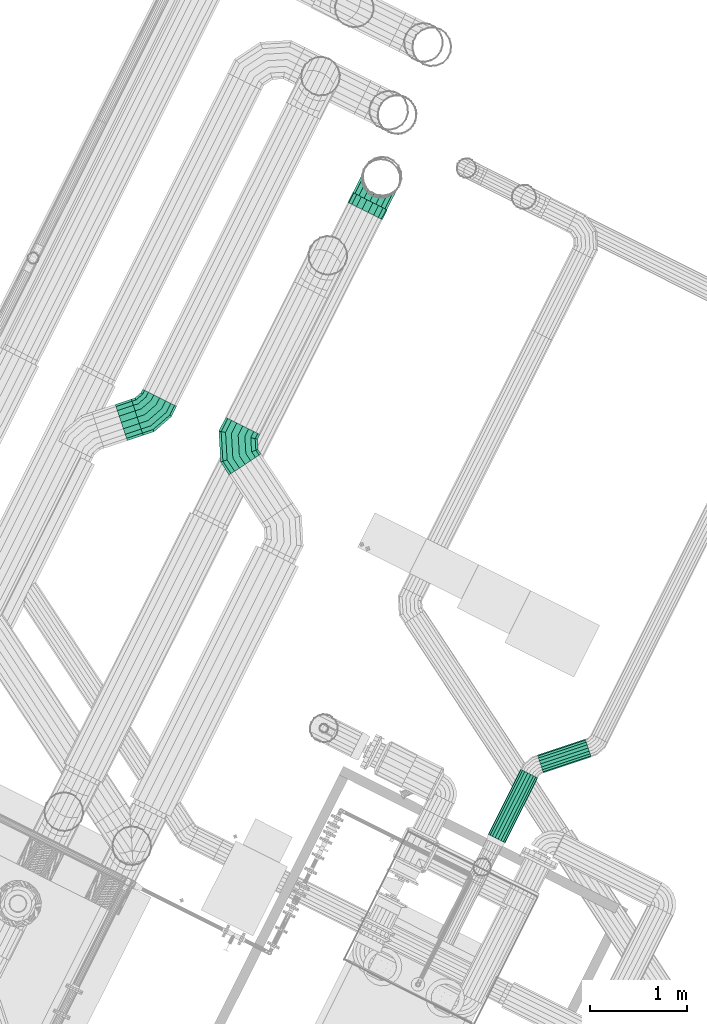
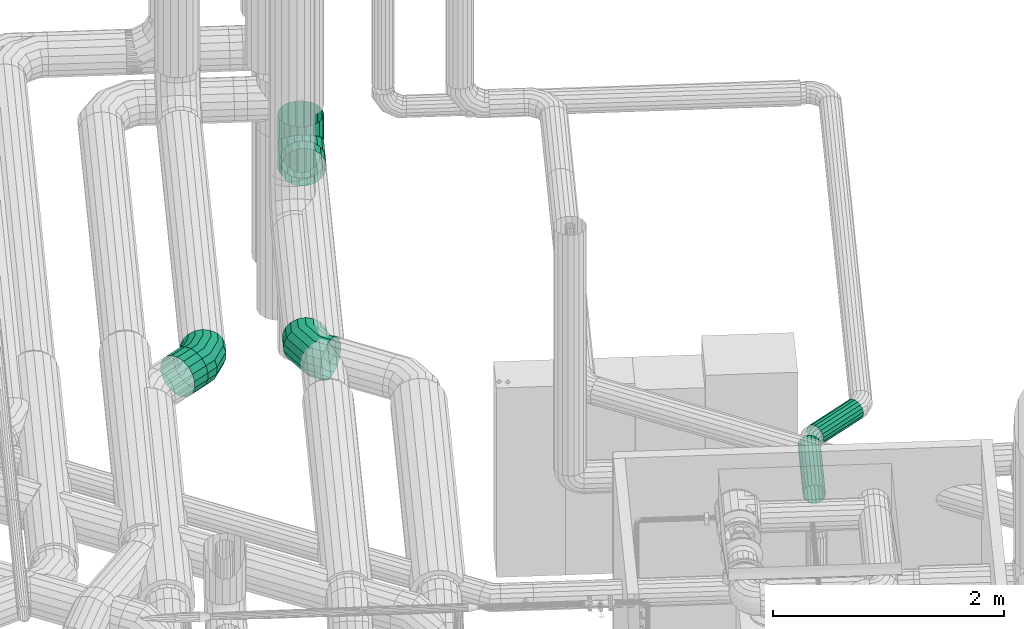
# One storey, part 163 of 206: 4 flow segments, 3 flow fittings.
"""IFC2X3 building model written with IfcOpenShell, lengths in metres."""

from ifc_helpers import new_model, si_unit, derived_unit, direction, frame, origin, place, context, subcontext, project, spatial, face_set, surface_model, source, transform, mapped, material, type_object, type_shapes, element, save


model = new_model("IFC2X3")

# Units and contexts
model_context = context("Model", 3, precision=5.2338327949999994e-05, world=origin(), true_north=direction((0.0, 1.0)))
body_context = subcontext(model_context, "Body", "Model", "MODEL_VIEW")
ifc_project = project(units=[si_unit("LENGTHUNIT", "METRE"), si_unit("AREAUNIT", "SQUARE_METRE"), si_unit("VOLUMEUNIT", "CUBIC_METRE"), si_unit("MASSUNIT", "GRAM", prefix="KILO"), si_unit("PLANEANGLEUNIT", "RADIAN"), derived_unit("THERMALTRANSMITTANCEUNIT", [(si_unit("MASSUNIT", "GRAM", prefix="KILO"), 1), (si_unit("THERMODYNAMICTEMPERATUREUNIT", "KELVIN"), -1), (si_unit("TIMEUNIT", "SECOND"), -3)])], contexts=[model_context])

# Site, building, storey
site_placement = place(None, frame((0.0, 0.0, 0.0), z_axis=(0.0, 0.0, 1.0), x_axis=(0.8939966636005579, -0.4480736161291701, 0.0)))
site = spatial("IfcSite", under=ifc_project, at=site_placement, Name="Default", CompositionType="ELEMENT")
building_placement = place(site_placement, origin())
building = spatial("IfcBuilding", under=site, at=building_placement, CompositionType="ELEMENT")
storey_placement = place(building_placement, origin())
storey = spatial("IfcBuildingStorey", under=building, at=storey_placement, Name="Erdgeschoss", CompositionType="ELEMENT", Elevation=0.0)

# Flow fittings
ifc_material = material(Name="IfcSurfaceStyle #251447")
distribution_element_type_1 = type_object("IfcDistributionElementType", Name="Segmentbogen 3 teilig 295093:Segmentbogen 3 teilig 295093", material=ifc_material)
shared_shape_1 = source(origin(), body_context, "Body", "SurfaceModel", [
    surface_model("IfcFaceBasedSurfaceModel", [(26.39416121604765, 12.822028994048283, 2.0), (26.46256524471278, 12.822028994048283, 2.0120614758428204), (26.46256524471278, 12.73317812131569, 2.0120614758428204), (26.39416121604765, 12.714849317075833, 2.0), (26.522718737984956, 12.822028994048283, 2.0467911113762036), (26.522718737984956, 12.749296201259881, 2.0467911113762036), (26.56736629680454, 12.822028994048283, 2.099999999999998), (26.56736629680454, 12.761259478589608, 2.099999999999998), (26.59112276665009, 12.822028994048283, 2.165270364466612), (26.59112276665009, 12.767625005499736, 2.165270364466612), (26.59112276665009, 12.822028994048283, 2.234729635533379), (26.59112276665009, 12.767625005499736, 2.234729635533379), (26.567366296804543, 12.822028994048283, 2.3), (26.567366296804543, 12.761259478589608, 2.3), (26.522718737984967, 12.822028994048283, 2.3532088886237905), (26.522718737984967, 12.749296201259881, 2.3532088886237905), (26.462565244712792, 12.822028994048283, 2.387938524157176), (26.462565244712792, 12.733178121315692, 2.387938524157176), (26.394161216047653, 12.822028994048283, 2.3999999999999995), (26.394161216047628, 12.714849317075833, 2.3999999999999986), (26.32575718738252, 12.822028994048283, 2.387938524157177), (26.32575718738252, 12.696520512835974, 2.387938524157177), (26.26560369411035, 12.822028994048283, 2.353208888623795), (26.26560369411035, 12.680402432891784, 2.353208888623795), (26.220956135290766, 12.822028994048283, 2.300000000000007), (26.220956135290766, 12.668439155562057, 2.300000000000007), (26.19719966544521, 12.822028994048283, 2.2347296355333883), (26.19719966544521, 12.662073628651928, 2.2347296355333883), (26.197199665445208, 12.822028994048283, 2.1652703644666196), (26.197199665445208, 12.662073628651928, 2.1652703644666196), (26.220956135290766, 12.822028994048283, 2.100000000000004), (26.220956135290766, 12.668439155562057, 2.100000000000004), (26.26560369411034, 12.822028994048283, 2.04679111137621), (26.26560369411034, 12.680402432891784, 2.04679111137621), (26.325757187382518, 12.822028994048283, 2.0120614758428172), (26.325757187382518, 12.696520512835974, 2.0120614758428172), (26.551416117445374, 12.579283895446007, 2.0120614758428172), (26.501340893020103, 12.529208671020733, 2.0), (26.595451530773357, 12.623319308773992, 2.0467911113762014), (26.628135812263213, 12.656003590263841, 2.099999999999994), (26.645526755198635, 12.673394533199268, 2.165270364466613), (26.645526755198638, 12.673394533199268, 2.2347296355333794), (26.628135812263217, 12.656003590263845, 2.2999999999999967), (26.595451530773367, 12.623319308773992, 2.353208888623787), (26.551416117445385, 12.579283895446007, 2.387938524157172), (26.501340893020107, 12.529208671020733, 2.399999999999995), (26.45126566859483, 12.479133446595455, 2.3879385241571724), (26.407230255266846, 12.43509803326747, 2.353208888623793), (26.374545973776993, 12.402413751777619, 2.300000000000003), (26.357155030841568, 12.385022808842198, 2.23472963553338), (26.357155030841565, 12.385022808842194, 2.165270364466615), (26.37454597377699, 12.402413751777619, 2.1000000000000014), (26.407230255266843, 12.43509803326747, 2.046791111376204), (26.451265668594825, 12.479133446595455, 2.012061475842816), (26.628363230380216, 12.534858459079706, 2.0120614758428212), (26.59416121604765, 12.475618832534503, 2.0), (26.658439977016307, 12.586952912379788, 2.046791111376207), (26.680763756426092, 12.625618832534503, 2.1000000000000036), (26.692641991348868, 12.64619253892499, 2.1652703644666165), (26.69264199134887, 12.64619253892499, 2.2347296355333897), (26.680763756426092, 12.625618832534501, 2.3000000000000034), (26.658439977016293, 12.586952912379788, 2.3532088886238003), (26.628363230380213, 12.534858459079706, 2.3879385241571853), (26.594161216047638, 12.475618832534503, 2.400000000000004), (26.55995920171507, 12.416379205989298, 2.3879385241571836), (26.529882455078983, 12.364284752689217, 2.3532088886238), (26.5075586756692, 12.3256188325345, 2.300000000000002), (26.49568044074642, 12.305045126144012, 2.2347296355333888), (26.49568044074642, 12.305045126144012, 2.165270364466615), (26.507558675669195, 12.325618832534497, 2.100000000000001), (26.52988245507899, 12.364284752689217, 2.0467911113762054), (26.55995920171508, 12.416379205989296, 2.0120614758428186)], [face_set([[[0, 1, 2, 3]], [[1, 4, 5, 2]], [[4, 6, 7, 5]], [[6, 8, 9, 7]], [[8, 10, 11, 9]], [[10, 12, 13, 11]], [[12, 14, 15, 13]], [[14, 16, 17, 15]], [[16, 18, 19, 17]], [[18, 20, 21, 19]], [[20, 22, 23, 21]], [[22, 24, 25, 23]], [[24, 26, 27, 25]], [[26, 28, 29, 27]], [[28, 30, 31, 29]], [[30, 32, 33, 31]], [[32, 34, 35, 33]], [[34, 0, 3, 35]], [[3, 2, 36, 37]], [[2, 5, 38, 36]], [[5, 7, 39, 38]], [[7, 9, 40, 39]], [[9, 11, 41, 40]], [[11, 13, 42, 41]], [[13, 15, 43, 42]], [[15, 17, 44, 43]], [[17, 19, 45, 44]], [[19, 21, 46, 45]], [[21, 23, 47, 46]], [[23, 25, 48, 47]], [[25, 27, 49, 48]], [[27, 29, 50, 49]], [[29, 31, 51, 50]], [[31, 33, 52, 51]], [[33, 35, 53, 52]], [[35, 3, 37, 53]], [[37, 36, 54, 55]], [[36, 38, 56, 54]], [[38, 39, 57, 56]], [[39, 40, 58, 57]], [[40, 41, 59, 58]], [[41, 42, 60, 59]], [[42, 43, 61, 60]], [[43, 44, 62, 61]], [[44, 45, 63, 62]], [[45, 46, 64, 63]], [[46, 47, 65, 64]], [[47, 48, 66, 65]], [[48, 49, 67, 66]], [[49, 50, 68, 67]], [[50, 51, 69, 68]], [[51, 52, 70, 69]], [[52, 53, 71, 70]], [[53, 37, 55, 71]]])]),
])
type_shapes(distribution_element_type_1, [shared_shape_1])
flow_fitting_1_placement = place(storey_placement, origin())
element("IfcFlowFitting", 1, at=flow_fitting_1_placement, inside=storey, type_object=distribution_element_type_1, material=ifc_material, Name="Segmentbogen 3 teilig", ObjectType="Segmentbogen 3 teilig", context=body_context, shape_type="MappedRepresentation", body=[
    mapped(shared_shape_1, transform((0.0, 0.0, 0.0), scale=1.0)),
])
distribution_element_type_2 = type_object("IfcDistributionElementType", Name="Segmentbogen 3 teilig 296050:Segmentbogen 3 teilig 296050", material=ifc_material)
shared_shape_2 = source(origin(), body_context, "Body", "SurfaceModel", [
    surface_model("IfcFaceBasedSurfaceModel", [(25.496428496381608, 12.695498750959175, 2.4000000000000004), (25.428024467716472, 12.695498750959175, 2.387938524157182), (25.428024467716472, 12.6295402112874, 2.3879385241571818), (25.496428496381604, 12.615933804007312, 2.399999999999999), (25.367870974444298, 12.695498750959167, 2.3532088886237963), (25.367870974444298, 12.64150548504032, 2.3532088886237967), (25.32322341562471, 12.695498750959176, 2.3000000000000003), (25.323223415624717, 12.650386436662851, 2.3000000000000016), (25.299466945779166, 12.695498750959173, 2.2347296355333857), (25.299466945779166, 12.655111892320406, 2.234729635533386), (25.29946694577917, 12.695498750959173, 2.165270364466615), (25.29946694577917, 12.655111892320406, 2.165270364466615), (25.32322341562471, 12.695498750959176, 2.0999999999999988), (25.323223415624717, 12.650386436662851, 2.0999999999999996), (25.3678709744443, 12.695498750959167, 2.0467911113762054), (25.3678709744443, 12.64150548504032, 2.0467911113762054), (25.42802446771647, 12.695498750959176, 2.012061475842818), (25.42802446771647, 12.6295402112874, 2.0120614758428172), (25.496428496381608, 12.695498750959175, 2.0), (25.49642849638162, 12.615933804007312, 2.0), (25.56483252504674, 12.695498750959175, 2.0120614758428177), (25.564832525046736, 12.602327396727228, 2.0120614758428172), (25.62498601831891, 12.695498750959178, 2.0467911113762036), (25.624986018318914, 12.590362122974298, 2.0467911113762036), (25.669633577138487, 12.695498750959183, 2.1000000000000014), (25.669633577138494, 12.581481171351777, 2.1000000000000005), (25.693390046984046, 12.695498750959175, 2.1652703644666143), (25.693390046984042, 12.57675571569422, 2.1652703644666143), (25.693390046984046, 12.695498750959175, 2.2347296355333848), (25.693390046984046, 12.57675571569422, 2.234729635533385), (25.669633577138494, 12.695498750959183, 2.299999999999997), (25.669633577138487, 12.581481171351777, 2.2999999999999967), (25.624986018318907, 12.695498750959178, 2.3532088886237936), (25.62498601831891, 12.590362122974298, 2.3532088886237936), (25.56483252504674, 12.695498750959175, 2.387938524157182), (25.56483252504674, 12.602327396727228, 2.3879385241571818), (25.377541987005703, 12.507664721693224, 2.3879385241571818), (25.435532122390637, 12.46891695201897, 2.4000000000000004), (25.32654631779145, 12.541738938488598, 2.353208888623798), (25.28869594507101, 12.567029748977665, 2.299999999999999), (25.268556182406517, 12.580486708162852, 2.2347296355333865), (25.26855618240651, 12.580486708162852, 2.165270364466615), (25.288695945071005, 12.567029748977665, 2.1000000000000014), (25.326546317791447, 12.541738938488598, 2.0467911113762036), (25.377541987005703, 12.507664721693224, 2.012061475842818), (25.435532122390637, 12.46891695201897, 2.0), (25.493522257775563, 12.430169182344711, 2.012061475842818), (25.544517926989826, 12.39609496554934, 2.046791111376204), (25.582368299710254, 12.370804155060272, 2.1000000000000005), (25.60250806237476, 12.357347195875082, 2.1652703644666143), (25.602508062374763, 12.357347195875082, 2.234729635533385), (25.582368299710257, 12.370804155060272, 2.2999999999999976), (25.54451792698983, 12.39609496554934, 2.3532088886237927), (25.49352225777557, 12.430169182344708, 2.387938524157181), (25.33090225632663, 12.461024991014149, 2.387938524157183), (25.379271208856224, 12.412656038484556, 2.4000000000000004), (25.288367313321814, 12.503559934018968, 2.353208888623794), (25.256796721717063, 12.535130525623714, 2.3000000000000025), (25.23999836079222, 12.55192888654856, 2.2347296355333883), (25.239998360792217, 12.551928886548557, 2.165270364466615), (25.256796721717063, 12.535130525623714, 2.100000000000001), (25.288367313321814, 12.503559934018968, 2.0467911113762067), (25.33090225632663, 12.461024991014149, 2.012061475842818), (25.379271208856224, 12.412656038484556, 2.0), (25.42764016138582, 12.364287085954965, 2.0120614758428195), (25.470175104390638, 12.321752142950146, 2.046791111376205), (25.501745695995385, 12.2901815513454, 2.0999999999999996), (25.51854405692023, 12.273383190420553, 2.1652703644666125), (25.518544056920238, 12.273383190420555, 2.234729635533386), (25.501745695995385, 12.2901815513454, 2.3), (25.470175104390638, 12.321752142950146, 2.3532088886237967), (25.42764016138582, 12.364287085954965, 2.3879385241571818)], [face_set([[[0, 1, 2, 3]], [[1, 4, 5, 2]], [[4, 6, 7, 5]], [[6, 8, 9, 7]], [[8, 10, 11, 9]], [[10, 12, 13, 11]], [[12, 14, 15, 13]], [[14, 16, 17, 15]], [[16, 18, 19, 17]], [[18, 20, 21, 19]], [[20, 22, 23, 21]], [[22, 24, 25, 23]], [[24, 26, 27, 25]], [[26, 28, 29, 27]], [[28, 30, 31, 29]], [[30, 32, 33, 31]], [[32, 34, 35, 33]], [[34, 0, 3, 35]], [[3, 2, 36, 37]], [[2, 5, 38, 36]], [[5, 7, 39, 38]], [[7, 9, 40, 39]], [[9, 11, 41, 40]], [[11, 13, 42, 41]], [[13, 15, 43, 42]], [[15, 17, 44, 43]], [[17, 19, 45, 44]], [[19, 21, 46, 45]], [[21, 23, 47, 46]], [[23, 25, 48, 47]], [[25, 27, 49, 48]], [[27, 29, 50, 49]], [[29, 31, 51, 50]], [[31, 33, 52, 51]], [[33, 35, 53, 52]], [[35, 3, 37, 53]], [[37, 36, 54, 55]], [[36, 38, 56, 54]], [[38, 39, 57, 56]], [[39, 40, 58, 57]], [[40, 41, 59, 58]], [[41, 42, 60, 59]], [[42, 43, 61, 60]], [[43, 44, 62, 61]], [[44, 45, 63, 62]], [[45, 46, 64, 63]], [[46, 47, 65, 64]], [[47, 48, 66, 65]], [[48, 49, 67, 66]], [[49, 50, 68, 67]], [[50, 51, 69, 68]], [[51, 52, 70, 69]], [[52, 53, 71, 70]], [[53, 37, 55, 71]]])]),
])
type_shapes(distribution_element_type_2, [shared_shape_2])
flow_fitting_2_placement = place(storey_placement, origin())
element("IfcFlowFitting", 2, at=flow_fitting_2_placement, inside=storey, type_object=distribution_element_type_2, material=ifc_material, Name="Segmentbogen 3 teilig", ObjectType="Segmentbogen 3 teilig", context=body_context, shape_type="MappedRepresentation", body=[
    mapped(shared_shape_2, transform((0.0, 0.0, 0.0), scale=1.0)),
])

# Flow segments
distribution_element_type_3 = type_object("IfcDistributionElementType", Name="Wickelfalzrohr 296073:Wickelfalzrohr 296073", material=ifc_material)
shared_shape_3 = source(origin(), body_context, "Body", "SurfaceModel", [
    surface_model("IfcFaceBasedSurfaceModel", [(25.25599453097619, 12.28937936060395, 2.0), (25.207625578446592, 12.337748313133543, 2.0120614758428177), (25.330902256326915, 12.461024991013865, 2.0120614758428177), (25.379271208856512, 12.41265603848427, 2.0), (25.165090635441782, 12.380283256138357, 2.0467911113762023), (25.28836731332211, 12.503559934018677, 2.046791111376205), (25.133520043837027, 12.41185384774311, 2.099999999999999), (25.256796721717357, 12.535130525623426, 2.100000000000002), (25.116721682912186, 12.428652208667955, 2.1652703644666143), (25.239998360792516, 12.55192888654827, 2.1652703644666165), (25.116721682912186, 12.428652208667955, 2.2347296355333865), (25.239998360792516, 12.551928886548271, 2.2347296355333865), (25.133520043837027, 12.411853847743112, 2.3000000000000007), (25.256796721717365, 12.535130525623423, 2.3000000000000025), (25.16509063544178, 12.380283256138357, 2.3532088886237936), (25.288367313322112, 12.503559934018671, 2.3532088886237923), (25.207625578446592, 12.337748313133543, 2.387938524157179), (25.330902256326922, 12.46102499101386, 2.387938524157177), (25.25599453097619, 12.28937936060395, 2.3999999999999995), (25.379271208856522, 12.41265603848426, 2.3999999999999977), (25.304363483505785, 12.241010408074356, 2.387938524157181), (25.427640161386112, 12.364287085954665, 2.387938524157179), (25.346898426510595, 12.198475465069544, 2.353208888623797), (25.470175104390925, 12.321752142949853, 2.3532088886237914), (25.378469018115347, 12.166904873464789, 2.300000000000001), (25.501745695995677, 12.290181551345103, 2.2999999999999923), (25.395267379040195, 12.150106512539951, 2.234729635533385), (25.518544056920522, 12.273383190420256, 2.2347296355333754), (25.395267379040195, 12.15010651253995, 2.1652703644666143), (25.51854405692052, 12.273383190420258, 2.1652703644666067), (25.378469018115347, 12.166904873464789, 2.1000000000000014), (25.501745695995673, 12.290181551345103, 2.099999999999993), (25.346898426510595, 12.198475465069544, 2.0467911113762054), (25.470175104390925, 12.321752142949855, 2.0467911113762), (25.304363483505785, 12.241010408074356, 2.012061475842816), (25.427640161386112, 12.36428708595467, 2.01206147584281)], [face_set([[[0, 1, 2, 3]], [[1, 4, 5, 2]], [[4, 6, 7, 5]], [[6, 8, 9, 7]], [[8, 10, 11, 9]], [[10, 12, 13, 11]], [[12, 14, 15, 13]], [[14, 16, 17, 15]], [[16, 18, 19, 17]], [[18, 20, 21, 19]], [[20, 22, 23, 21]], [[22, 24, 25, 23]], [[24, 26, 27, 25]], [[26, 28, 29, 27]], [[28, 30, 31, 29]], [[30, 32, 33, 31]], [[32, 34, 35, 33]], [[34, 0, 3, 35]]])]),
])
type_shapes(distribution_element_type_3, [shared_shape_3])
flow_segment_1_placement = place(storey_placement, origin())
element("IfcFlowSegment", 3, at=flow_segment_1_placement, inside=storey, type_object=distribution_element_type_3, material=ifc_material, Name="Wickelfalzrohr", ObjectType="Wickelfalzrohr", context=body_context, shape_type="MappedRepresentation", body=[
    mapped(shared_shape_3, transform((0.0, 0.0, 0.0), scale=1.0)),
])
distribution_element_type_4 = type_object("IfcDistributionElementType", Name="Wickelfalzrohr 619478:Wickelfalzrohr 619478", material=ifc_material)
shared_shape_4 = source(origin(), body_context, "Body", "SurfaceModel", [
    surface_model("IfcFaceBasedSurfaceModel", [(31.07650925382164, 11.444755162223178, 2.0999999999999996), (31.100693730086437, 11.42057068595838, 2.106030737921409), (30.732763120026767, 11.052640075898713, 2.10603073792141), (30.70857864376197, 11.076824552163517, 2.0999999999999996), (31.121961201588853, 11.399303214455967, 2.123395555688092), (30.754030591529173, 11.031372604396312, 2.1233955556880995), (31.137746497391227, 11.383517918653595, 2.1499999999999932), (30.769815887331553, 11.015587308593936, 2.1500000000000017), (31.146145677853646, 11.375118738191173, 2.1826351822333), (30.77821506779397, 11.007188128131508, 2.1826351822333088), (31.14614567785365, 11.375118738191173, 2.217364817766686), (30.77821506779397, 11.007188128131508, 2.2173648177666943), (31.137746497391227, 11.383517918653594, 2.249999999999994), (30.769815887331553, 11.015587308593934, 2.25), (31.121961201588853, 11.399303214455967, 2.2766044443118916), (30.754030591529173, 11.031372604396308, 2.2766044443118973), (31.10069373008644, 11.420570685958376, 2.2939692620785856), (30.732763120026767, 11.052640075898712, 2.293969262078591), (31.07650925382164, 11.444755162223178, 2.3000000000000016), (30.70857864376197, 11.076824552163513, 2.3000000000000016), (31.052324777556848, 11.468939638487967, 2.293969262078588), (30.684394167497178, 11.101009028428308, 2.293969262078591), (31.031057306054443, 11.490207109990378, 2.276604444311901), (30.66312669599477, 11.122276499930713, 2.276604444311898), (31.01527201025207, 11.50599240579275, 2.25), (30.64734140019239, 11.138061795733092, 2.2499999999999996), (31.006872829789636, 11.514391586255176, 2.2173648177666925), (30.638942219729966, 11.146460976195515, 2.217364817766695), (31.006872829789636, 11.514391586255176, 2.182635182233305), (30.638942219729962, 11.146460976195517, 2.182635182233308), (31.015272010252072, 11.50599240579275, 2.15), (30.647341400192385, 11.138061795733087, 2.1500000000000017), (31.031057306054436, 11.490207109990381, 2.123395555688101), (30.66312669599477, 11.122276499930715, 2.1233955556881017), (31.052324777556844, 11.468939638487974, 2.106030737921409), (30.684394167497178, 11.101009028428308, 2.1060307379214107)], [face_set([[[0, 1, 2, 3]], [[1, 4, 5, 2]], [[4, 6, 7, 5]], [[6, 8, 9, 7]], [[8, 10, 11, 9]], [[10, 12, 13, 11]], [[12, 14, 15, 13]], [[14, 16, 17, 15]], [[16, 18, 19, 17]], [[18, 20, 21, 19]], [[20, 22, 23, 21]], [[22, 24, 25, 23]], [[24, 26, 27, 25]], [[26, 28, 29, 27]], [[28, 30, 31, 29]], [[30, 32, 33, 31]], [[32, 34, 35, 33]], [[34, 0, 3, 35]]])]),
])
type_shapes(distribution_element_type_4, [shared_shape_4])
flow_segment_2_placement = place(storey_placement, origin())
element("IfcFlowSegment", 4, at=flow_segment_2_placement, inside=storey, type_object=distribution_element_type_4, material=ifc_material, Name="Wickelfalzrohr", ObjectType="Wickelfalzrohr", context=body_context, shape_type="MappedRepresentation", body=[
    mapped(shared_shape_4, transform((0.0, 0.0, 0.0), scale=1.0)),
])
distribution_element_type_5 = type_object("IfcDistributionElementType", Name="Wickelfalzrohr 619993:Wickelfalzrohr 619993", material=ifc_material)
shared_shape_5 = source(origin(), body_context, "Body", "SurfaceModel", [
    surface_model("IfcFaceBasedSurfaceModel", [(30.74999999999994, 10.185208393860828, 2.199999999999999), (30.743969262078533, 10.185208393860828, 2.165797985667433), (30.743969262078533, 10.935403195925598, 2.165797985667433), (30.74999999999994, 10.935403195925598, 2.1999999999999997), (30.726604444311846, 10.185208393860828, 2.1357212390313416), (30.726604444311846, 10.935403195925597, 2.1357212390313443), (30.699999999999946, 10.185208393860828, 2.1133974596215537), (30.699999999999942, 10.935403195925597, 2.1133974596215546), (30.667364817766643, 10.185208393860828, 2.101519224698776), (30.667364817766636, 10.935403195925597, 2.101519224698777), (30.632635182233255, 10.185208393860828, 2.1015192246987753), (30.63263518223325, 10.935403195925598, 2.101519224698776), (30.599999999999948, 10.185208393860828, 2.11339745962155), (30.599999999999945, 10.935403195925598, 2.1133974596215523), (30.573395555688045, 10.185208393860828, 2.135721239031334), (30.573395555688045, 10.935403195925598, 2.1357212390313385), (30.556030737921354, 10.185208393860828, 2.1657979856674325), (30.556030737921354, 10.935403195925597, 2.1657979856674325), (30.549999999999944, 10.185208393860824, 2.2000000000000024), (30.549999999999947, 10.935403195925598, 2.1999999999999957), (30.556030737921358, 10.185208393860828, 2.2342020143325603), (30.556030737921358, 10.935403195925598, 2.234202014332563), (30.57339555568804, 10.185208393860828, 2.264278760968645), (30.573395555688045, 10.935403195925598, 2.264278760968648), (30.599999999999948, 10.185208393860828, 2.2866025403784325), (30.59999999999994, 10.935403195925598, 2.286602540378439), (30.63263518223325, 10.185208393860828, 2.2984807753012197), (30.632635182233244, 10.935403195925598, 2.29848077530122), (30.667364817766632, 10.185208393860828, 2.2984807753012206), (30.667364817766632, 10.935403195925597, 2.2984807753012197), (30.699999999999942, 10.185208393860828, 2.2866025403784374), (30.699999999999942, 10.935403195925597, 2.2866025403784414), (30.72660444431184, 10.185208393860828, 2.264278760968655), (30.726604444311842, 10.935403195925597, 2.2642787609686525), (30.743969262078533, 10.185208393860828, 2.2342020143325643), (30.743969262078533, 10.935403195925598, 2.234202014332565)], [face_set([[[0, 1, 2, 3]], [[1, 4, 5, 2]], [[4, 6, 7, 5]], [[6, 8, 9, 7]], [[8, 10, 11, 9]], [[10, 12, 13, 11]], [[12, 14, 15, 13]], [[14, 16, 17, 15]], [[16, 18, 19, 17]], [[18, 20, 21, 19]], [[20, 22, 23, 21]], [[22, 24, 25, 23]], [[24, 26, 27, 25]], [[26, 28, 29, 27]], [[28, 30, 31, 29]], [[30, 32, 33, 31]], [[32, 34, 35, 33]], [[34, 0, 3, 35]]])]),
])
type_shapes(distribution_element_type_5, [shared_shape_5])
flow_segment_3_placement = place(storey_placement, origin())
element("IfcFlowSegment", 5, at=flow_segment_3_placement, inside=storey, type_object=distribution_element_type_5, material=ifc_material, Name="Wickelfalzrohr", ObjectType="Wickelfalzrohr", context=body_context, shape_type="MappedRepresentation", body=[
    mapped(shared_shape_5, transform((0.0, 0.0, 0.0), scale=1.0)),
])

# Flow fitting
distribution_element_type_6 = type_object("IfcDistributionElementType", Name="Abzweigstück 90°:Abzweigstück 90°", material=ifc_material)
shared_shape_6 = source(origin(), body_context, "Body", "SurfaceModel", [
    surface_model("IfcFaceBasedSurfaceModel", [(26.328825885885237, 15.771013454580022, 2.485), (26.340887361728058, 15.839417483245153, 2.485), (26.34088736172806, 15.839417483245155, 1.915), (26.328825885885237, 15.771013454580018, 1.915), (26.37561699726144, 15.899570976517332, 2.485), (26.37561699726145, 15.89957097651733, 1.915), (26.42882588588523, 15.944218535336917, 2.485), (26.428825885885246, 15.944218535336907, 1.915), (26.49409625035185, 15.967975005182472, 2.485), (26.494096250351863, 15.967975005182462, 1.915), (26.563555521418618, 15.967975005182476, 2.485), (26.563555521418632, 15.967975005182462, 1.915), (26.628825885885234, 15.94421853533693, 2.485), (26.62882588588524, 15.944218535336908, 1.915), (26.682034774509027, 15.899570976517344, 2.485), (26.682034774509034, 15.899570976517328, 1.915), (26.716764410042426, 15.839417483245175, 2.485), (26.716764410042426, 15.839417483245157, 1.915), (26.728825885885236, 15.771013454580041, 2.485), (26.728825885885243, 15.771013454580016, 1.915), (26.716764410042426, 15.702609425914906, 2.485), (26.716764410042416, 15.702609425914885, 1.915), (26.682034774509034, 15.64245593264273, 2.485), (26.682034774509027, 15.64245593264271, 1.915), (26.628825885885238, 15.597808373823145, 2.485), (26.628825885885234, 15.59780837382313, 1.915), (26.563555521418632, 15.574051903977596, 2.485), (26.563555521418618, 15.574051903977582, 1.915), (26.494096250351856, 15.574051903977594, 2.485), (26.494096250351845, 15.574051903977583, 1.915), (26.428825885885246, 15.597808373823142, 2.485), (26.428825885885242, 15.597808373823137, 1.915), (26.37561699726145, 15.642455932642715, 2.485), (26.37561699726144, 15.642455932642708, 1.915), (26.340887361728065, 15.702609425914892, 2.485), (26.340887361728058, 15.702609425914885, 1.915), (26.528825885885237, 15.571013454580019, 2.0), (26.597229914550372, 15.583074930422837, 2.012061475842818), (26.59722991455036, 15.486013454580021, 2.012061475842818), (26.52882588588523, 15.486013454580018, 2.0), (26.657383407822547, 15.61780456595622, 2.046791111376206), (26.657383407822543, 15.486013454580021, 2.0467911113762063), (26.70203096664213, 15.671013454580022, 2.0999999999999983), (26.702030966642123, 15.486013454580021, 2.0999999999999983), (26.725787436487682, 15.736283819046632, 2.165270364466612), (26.725787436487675, 15.486013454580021, 2.165270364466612), (26.725787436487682, 15.736283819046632, 2.234729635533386), (26.725787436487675, 15.486013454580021, 2.234729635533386), (26.70203096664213, 15.671013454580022, 2.3), (26.702030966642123, 15.486013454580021, 2.3), (26.657383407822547, 15.61780456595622, 2.3532088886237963), (26.657383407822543, 15.486013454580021, 2.3532088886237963), (26.597229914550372, 15.583074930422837, 2.3879385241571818), (26.59722991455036, 15.486013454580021, 2.3879385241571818), (26.528825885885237, 15.571013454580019, 2.3999999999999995), (26.52882588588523, 15.486013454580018, 2.399999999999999), (26.460421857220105, 15.583074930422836, 2.3879385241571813), (26.460421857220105, 15.486013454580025, 2.3879385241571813), (26.400268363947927, 15.617804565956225, 2.3532088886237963), (26.40026836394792, 15.486013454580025, 2.3532088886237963), (26.355620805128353, 15.671013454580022, 2.299999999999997), (26.35562080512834, 15.486013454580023, 2.2999999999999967), (26.3318643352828, 15.736283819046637, 2.2347296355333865), (26.33186433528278, 15.486013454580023, 2.2347296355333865), (26.331864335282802, 15.736283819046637, 2.165270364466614), (26.331864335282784, 15.486013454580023, 2.165270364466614), (26.355620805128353, 15.671013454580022, 2.1000000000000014), (26.35562080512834, 15.486013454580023, 2.1000000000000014), (26.400268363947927, 15.617804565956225, 2.046791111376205), (26.40026836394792, 15.486013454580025, 2.046791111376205), (26.460421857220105, 15.583074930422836, 2.0120614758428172), (26.460421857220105, 15.486013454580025, 2.0120614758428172)], [face_set([[[0, 1, 2, 3]], [[1, 4, 5, 2]], [[4, 6, 7, 5]], [[6, 8, 9, 7]], [[8, 10, 11, 9]], [[10, 12, 13, 11]], [[12, 14, 15, 13]], [[14, 16, 17, 15]], [[16, 18, 19, 17]], [[18, 20, 21, 19]], [[20, 22, 23, 21]], [[22, 24, 25, 23]], [[24, 26, 27, 25]], [[26, 28, 29, 27]], [[28, 30, 31, 29]], [[30, 32, 33, 31]], [[32, 34, 35, 33]], [[34, 0, 3, 35]], [[36, 37, 38, 39]], [[37, 40, 41, 38]], [[40, 42, 43, 41]], [[42, 44, 45, 43]], [[44, 46, 47, 45]], [[46, 48, 49, 47]], [[48, 50, 51, 49]], [[50, 52, 53, 51]], [[52, 54, 55, 53]], [[54, 56, 57, 55]], [[56, 58, 59, 57]], [[58, 60, 61, 59]], [[60, 62, 63, 61]], [[62, 64, 65, 63]], [[64, 66, 67, 65]], [[66, 68, 69, 67]], [[68, 70, 71, 69]], [[70, 36, 39, 71]]])]),
])
type_shapes(distribution_element_type_6, [shared_shape_6])
flow_fitting_3_placement = place(storey_placement, origin())
element("IfcFlowFitting", 6, at=flow_fitting_3_placement, inside=storey, type_object=distribution_element_type_6, material=ifc_material, Name="Abzweigstück 90°", ObjectType="Abzweigstück 90°", context=body_context, shape_type="MappedRepresentation", body=[
    mapped(shared_shape_6, transform((0.0, 0.0, 0.0), scale=1.0)),
])

# Flow segment
distribution_element_type_7 = type_object("IfcDistributionElementType", Name="Wickelfalzrohr 622475:Wickelfalzrohr 622475", material=ifc_material)
shared_shape_7 = source(origin(), body_context, "Body", "SurfaceModel", [
    surface_model("IfcFaceBasedSurfaceModel", [(26.328825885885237, 15.37101345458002, 2.2000000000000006), (26.340887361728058, 15.37101345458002, 2.2684040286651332), (26.340887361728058, 15.486013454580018, 2.2684040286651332), (26.328825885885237, 15.486013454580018, 2.1999999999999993), (26.37561699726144, 15.37101345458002, 2.3285575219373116), (26.375616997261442, 15.486013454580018, 2.3285575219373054), (26.428825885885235, 15.37101345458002, 2.3732050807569), (26.428825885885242, 15.486013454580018, 2.373205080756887), (26.49409625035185, 15.37101345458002, 2.3969615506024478), (26.494096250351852, 15.486013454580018, 2.3969615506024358), (26.563555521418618, 15.37101345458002, 2.3969615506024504), (26.56355552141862, 15.486013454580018, 2.396961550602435), (26.628825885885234, 15.37101345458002, 2.3732050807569), (26.628825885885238, 15.486013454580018, 2.3732050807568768), (26.68203477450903, 15.37101345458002, 2.328557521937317), (26.68203477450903, 15.486013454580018, 2.328557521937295), (26.71676441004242, 15.37101345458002, 2.268404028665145), (26.71676441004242, 15.486013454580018, 2.2684040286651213), (26.728825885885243, 15.37101345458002, 2.200000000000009), (26.728825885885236, 15.486013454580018, 2.199999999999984), (26.716764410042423, 15.37101345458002, 2.131595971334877), (26.71676441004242, 15.486013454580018, 2.131595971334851), (26.682034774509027, 15.37101345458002, 2.0714424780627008), (26.682034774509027, 15.486013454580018, 2.071442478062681), (26.628825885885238, 15.37101345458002, 2.0267949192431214), (26.62882588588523, 15.486013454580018, 2.0267949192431), (26.56355552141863, 15.37101345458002, 2.003038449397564), (26.56355552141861, 15.486013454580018, 2.0030384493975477), (26.49409625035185, 15.37101345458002, 2.003038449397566), (26.494096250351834, 15.486013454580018, 2.0030384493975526), (26.428825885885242, 15.37101345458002, 2.0267949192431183), (26.42882588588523, 15.486013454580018, 2.026794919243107), (26.37561699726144, 15.37101345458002, 2.071442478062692), (26.37561699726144, 15.486013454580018, 2.071442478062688), (26.34088736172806, 15.37101345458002, 2.1315959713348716), (26.34088736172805, 15.486013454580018, 2.1315959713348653)], [face_set([[[0, 1, 2, 3]], [[1, 4, 5, 2]], [[4, 6, 7, 5]], [[6, 8, 9, 7]], [[8, 10, 11, 9]], [[10, 12, 13, 11]], [[12, 14, 15, 13]], [[14, 16, 17, 15]], [[16, 18, 19, 17]], [[18, 20, 21, 19]], [[20, 22, 23, 21]], [[22, 24, 25, 23]], [[24, 26, 27, 25]], [[26, 28, 29, 27]], [[28, 30, 31, 29]], [[30, 32, 33, 31]], [[32, 34, 35, 33]], [[34, 0, 3, 35]]])]),
])
type_shapes(distribution_element_type_7, [shared_shape_7])
flow_segment_4_placement = place(storey_placement, origin())
element("IfcFlowSegment", 7, at=flow_segment_4_placement, inside=storey, type_object=distribution_element_type_7, material=ifc_material, Name="Wickelfalzrohr", ObjectType="Wickelfalzrohr", context=body_context, shape_type="MappedRepresentation", body=[
    mapped(shared_shape_7, transform((0.0, 0.0, 0.0), scale=1.0)),
])

save(model, "model.ifc")
